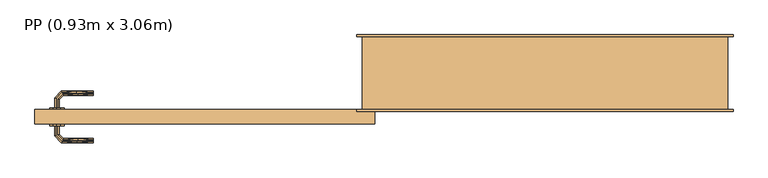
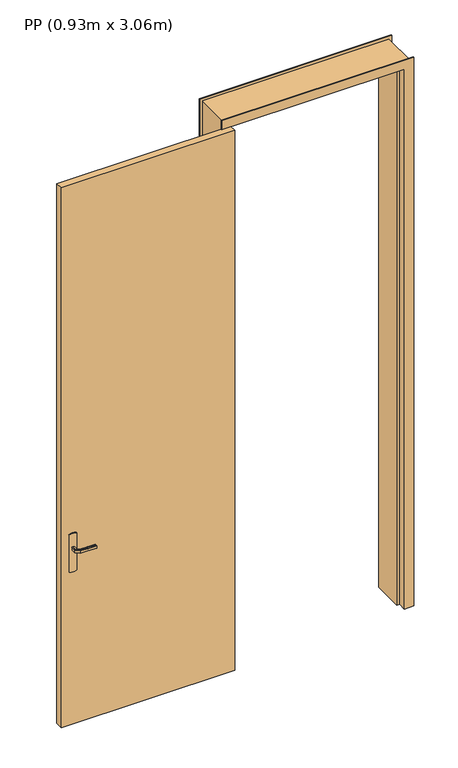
"""IFC4 building model written with IfcOpenShell, lengths in millimetres: door geometry, PP (0.93m x 3.06m)."""

import ifcopenshell
import ifcopenshell.guid

model = None  # the IFC model being written
_history = None  # IfcOwnerHistory: only IFC2X3 demands one
_inside = {}  # id of a spatial element -> (the spatial element, [elements in it])
_under = {}  # id of a project, library or spatial element -> (it, [spatial elements below it])
_declared = {}  # id of a project -> (the project, [libraries it declares])
_typed = {}  # id of a type object -> (the type object, [elements of that type])
_made_of = {}  # id of a material, layer set ... -> (it, [elements and type objects made of it])


def new_model(schema):
    """Start an empty IFC model of exactly this schema.

    Asked for "IFC4X3", IfcOpenShell would pick the latest addendum, in which some entities
    have other attributes; the version numbers below select the first issue.
    IFC2X3 requires an IfcOwnerHistory on every rooted entity: one is made here for all.
    """
    global model, _history
    if schema == "IFC4X3":
        model = ifcopenshell.file(schema_version=(4, 3, 0, 0))
    else:
        model = ifcopenshell.file(schema=schema)
    _inside.clear()
    _under.clear()
    _declared.clear()
    _typed.clear()
    _made_of.clear()
    _history = None
    if model.schema == "IFC2X3":
        org = make("IfcOrganization", Name="unknown")
        user = make(
            "IfcPersonAndOrganization",
            ThePerson=make("IfcPerson", FamilyName="unknown"),
            TheOrganization=org,
        )
        app = make(
            "IfcApplication",
            ApplicationDeveloper=org,
            Version="unknown",
            ApplicationFullName="unknown",
            ApplicationIdentifier="unknown",
        )
        _history = make(
            "IfcOwnerHistory",
            OwningUser=user,
            OwningApplication=app,
            ChangeAction="ADDED",
            CreationDate=0,
        )
    return model


def make(cls, **values):
    """One entity of the class cls with the attributes given. An attribute that is None is left unset."""
    return model.create_entity(
        cls, **{name: value for name, value in values.items() if value is not None}
    )


def rooted(cls, **values):
    """An entity with a GlobalId (a new one), such as an element, a storey or a relation."""
    return make(cls, GlobalId=ifcopenshell.guid.new(), OwnerHistory=_history, **values)


def si_unit(unit_type, name, prefix=None):
    """IfcSIUnit, for example si_unit("LENGTHUNIT", "METRE", prefix="MILLI")."""
    return make("IfcSIUnit", UnitType=unit_type, Prefix=prefix, Name=name)


def assignment(units):
    """IfcUnitAssignment: the units of a project."""
    return None if units is None else make("IfcUnitAssignment", Units=units)


def point(xyz):
    """IfcCartesianPoint."""
    return None if xyz is None else make("IfcCartesianPoint", Coordinates=xyz)


def direction(xyz):
    """IfcDirection."""
    return None if xyz is None else make("IfcDirection", DirectionRatios=xyz)


def frame(location, z_axis=None, x_axis=None):
    """IfcAxis2Placement3D, a coordinate frame: its origin and axes. An axis left out is left unset."""
    return make(
        "IfcAxis2Placement3D",
        Location=point(location),
        Axis=direction(z_axis),
        RefDirection=direction(x_axis),
    )


def origin():
    """The frame at (0, 0, 0) with its axes left unset."""
    return frame((0.0, 0.0, 0.0))


def origin_with_axes():
    """The frame at (0, 0, 0) with the z axis (0, 0, 1) and the x axis (1, 0, 0) written out."""
    return frame((0.0, 0.0, 0.0), z_axis=(0.0, 0.0, 1.0), x_axis=(1.0, 0.0, 0.0))


def place(relative_to, where):
    """IfcLocalPlacement: puts the frame where relative to a parent placement (None: the world)."""
    return make(
        "IfcLocalPlacement", PlacementRelTo=relative_to, RelativePlacement=where
    )


def context(
    kind, dimensions, precision=None, world=None, true_north=None, identifier=None
):
    """IfcGeometricRepresentationContext, for example the 3D "Model" context."""
    return make(
        "IfcGeometricRepresentationContext",
        ContextIdentifier=identifier,
        ContextType=kind,
        CoordinateSpaceDimension=dimensions,
        Precision=precision,
        WorldCoordinateSystem=world,
        TrueNorth=true_north,
    )


def project(units=None, contexts=None):
    """IfcProject with its units and contexts."""
    return rooted(
        "IfcProject",
        Name="project",
        RepresentationContexts=contexts,
        UnitsInContext=assignment(units),
    )


def spatial(cls, under=None, at=None, **own):
    """A site, building, storey or space (cls), placed at a placement, below another one or the project."""
    s = rooted(cls, ObjectPlacement=at, **own)
    if under is not None:
        _under.setdefault(under.id(), (under, []))[1].append(s)
    return s


def polyline(points):
    """IfcPolyline through the points."""
    return make("IfcPolyline", Points=[point(p) for p in points])


def outline(outer, holes=None, kind="AREA"):
    """IfcArbitraryClosedProfileDef: a profile drawn as a closed curve; with holes, ...WithVoids."""
    if holes is None:
        return make("IfcArbitraryClosedProfileDef", ProfileType=kind, OuterCurve=outer)
    return make(
        "IfcArbitraryProfileDefWithVoids",
        ProfileType=kind,
        OuterCurve=outer,
        InnerCurves=holes,
    )


def extrude(swept, where, along, depth):
    """IfcExtrudedAreaSolid: the profile swept, set in the frame where, extruded along a direction by depth."""
    return make(
        "IfcExtrudedAreaSolid",
        SweptArea=swept,
        Position=where,
        ExtrudedDirection=direction(along),
        Depth=depth,
    )


def faces_of(points, faces, orient=None, outer=None):
    """IfcFace entities. A face is a list of loops; a loop is a list of indices into points, from 0.

    orient and outer hold one flag for each loop. By default every Orientation is true, the
    first loop of a face is its IfcFaceOuterBound and the others are IfcFaceBound.
    """
    made = []
    for i, loops in enumerate(faces):
        bounds = []
        for j, loop in enumerate(loops):
            is_outer = j == 0 if outer is None else outer[i][j]
            bounds.append(
                make(
                    "IfcFaceOuterBound" if is_outer else "IfcFaceBound",
                    Bound=make("IfcPolyLoop", Polygon=[points[k] for k in loop]),
                    Orientation=True if orient is None else orient[i][j],
                )
            )
        made.append(make("IfcFace", Bounds=bounds))
    return made


def faceted_brep(points, faces, orient=None, outer=None, voids=None):
    """IfcFacetedBrep: a solid bounded by flat faces; with voids (closed shells), ...WithVoids."""
    shared = [point(p) for p in points]
    hull = make("IfcClosedShell", CfsFaces=faces_of(shared, faces, orient, outer))
    if voids is None:
        return make("IfcFacetedBrep", Outer=hull)
    return make(
        "IfcFacetedBrepWithVoids",
        Outer=hull,
        Voids=[
            make(cls, CfsFaces=faces_of(shared, fs, o, b)) for cls, fs, o, b in voids
        ],
    )


def shape(context_of_items, identifier, shape_type, items):
    """IfcShapeRepresentation: the items that make up one representation, for example the "Body"."""
    return make(
        "IfcShapeRepresentation",
        ContextOfItems=context_of_items,
        RepresentationIdentifier=identifier,
        RepresentationType=shape_type,
        Items=items,
    )


def source(mapping_origin, context_of_items, identifier, shape_type, items):
    """IfcRepresentationMap: a shape defined once, which mapped items show again and again."""
    return make(
        "IfcRepresentationMap",
        MappingOrigin=mapping_origin,
        MappedRepresentation=shape(context_of_items, identifier, shape_type, items),
    )


def transform(
    local_origin,
    x_axis=None,
    y_axis=None,
    z_axis=None,
    scale=None,
    scale2=None,
    scale3=None,
    uniform=True,
):
    """IfcCartesianTransformationOperator3D, or its non-uniform kind. x_axis, y_axis, z_axis: its Axis1, 2, 3."""
    if uniform:
        return make(
            "IfcCartesianTransformationOperator3D",
            Axis1=direction(x_axis),
            Axis2=direction(y_axis),
            LocalOrigin=point(local_origin),
            Scale=scale,
            Axis3=direction(z_axis),
        )
    return make(
        "IfcCartesianTransformationOperator3DnonUniform",
        Axis1=direction(x_axis),
        Axis2=direction(y_axis),
        LocalOrigin=point(local_origin),
        Scale=scale,
        Axis3=direction(z_axis),
        Scale2=scale2,
        Scale3=scale3,
    )


def mapped(mapping_source, mapping_target):
    """IfcMappedItem: shows the shape of a source again, moved by a transform."""
    return make(
        "IfcMappedItem", MappingSource=mapping_source, MappingTarget=mapping_target
    )


def made_of(thing, what):
    """Note that an element or type object is made of a material, layer set ...; save() writes the relation."""
    if what is not None:
        _made_of.setdefault(what.id(), (what, []))[1].append(thing)
    return thing


def element(
    cls,
    number,
    at=None,
    inside=None,
    cuts=None,
    type_object=None,
    material=None,
    context=None,
    identifier="Body",
    shape_type=None,
    held_by="IfcProductDefinitionShape",
    body=None,
    shapes=None,
    **own,
):
    """One element of the class cls, such as IfcWall. Its Tag is "e" and its number.

    at: its placement. inside: the storey or other place that contains it. cuts: it is an
    opening in that element (IfcRelVoidsElement). A single representation is given by context,
    identifier, shape_type and body (its items); several are given by shapes. held_by: the class
    of the entity that holds the representations. save() writes the other relations.
    """
    e = rooted(cls, Tag="e%d" % number, ObjectPlacement=at, **own)
    if body is not None:
        shapes = [shape(context, identifier, shape_type, body)]
    if shapes is not None:
        e.Representation = make(held_by, Representations=shapes)
    if inside is not None:
        _inside.setdefault(inside.id(), (inside, []))[1].append(e)
    if cuts is not None:
        rooted(
            "IfcRelVoidsElement", RelatingBuildingElement=cuts, RelatedOpeningElement=e
        )
    if type_object is not None:
        _typed.setdefault(type_object.id(), (type_object, []))[1].append(e)
    return made_of(e, material)


def aggregate(whole, parts):
    """IfcRelAggregates: a whole, such as a stair, and the parts it consists of."""
    return rooted("IfcRelAggregates", RelatingObject=whole, RelatedObjects=parts)


def save(model, path):
    """Write the relations noted so far, then the file.

    IfcRelAggregates (storeys below a building ...), IfcRelContainedInSpatialStructure (elements
    in a storey), IfcRelDefinesByType, IfcRelAssociatesMaterial and IfcRelDeclares: one each for
    every whole, place, type object, material and project.
    """
    for whole, parts in _under.values():
        aggregate(whole, parts)
    for where, things in _inside.values():
        rooted(
            "IfcRelContainedInSpatialStructure",
            RelatedElements=things,
            RelatingStructure=where,
        )
    for kind, things in _typed.values():
        rooted("IfcRelDefinesByType", RelatedObjects=things, RelatingType=kind)
    for what, things in _made_of.values():
        rooted("IfcRelAssociatesMaterial", RelatedObjects=things, RelatingMaterial=what)
    for by, libraries in _declared.values():
        rooted("IfcRelDeclares", RelatingContext=by, RelatedDefinitions=libraries)
    model.write(path)


def pp_0_93m_x_3_06m_213c1675(model_context):
    return source(origin(), model_context, "Body", "SolidModel", [
        extrude(outline(polyline([(-825.0, -40.0), (-825.0, 0.0), (105.0, 0.0), (105.0, -40.0), (-825.0, -40.0)])), origin_with_axes(), (0.0, 0.0, 1.0), 3060.0),
        faceted_brep([(-762.9747013, 5.0, 1007.7804408), (-767.0252987, 5.0, 1007.7804408), (-771.0, 5.0, 1007.0), (-771.0, 5.0, 993.0), (-767.0252987, 5.0, 992.2195592), (-762.9747013, 5.0, 992.2195592), (-759.0, 5.0, 993.0), (-759.0, 5.0, 1007.0), (-767.0252987, 31.0045755, 1007.7804408), (-771.0, 32.6509507, 1007.0), (-762.9747013, 29.3267632, 1007.7804408), (-749.2986025, 43.002862, 1007.7804408), (-750.9764148, 47.0534593, 1007.7804408), (-759.0, 27.680388, 1007.0), (-759.0, 27.680388, 993.0), (-762.9747013, 29.3267632, 992.2195592), (-767.0252987, 31.0045755, 992.2195592), (-750.9764148, 47.0534593, 992.2195592), (-749.2986025, 43.002862, 992.2195592), (-771.0, 32.6509507, 993.0), (-752.62279, 51.0281607, 1007.0), (-747.6522273, 39.0281607, 1007.0), (-747.6522273, 39.0281607, 993.0), (-752.62279, 51.0281607, 993.0), (-664.9813594, 51.0281607, 1007.0), (-664.9813594, 47.0534593, 1007.7804408), (-664.9813594, 43.002862, 1007.7804408), (-664.9813594, 39.0281607, 1007.0), (-664.9813594, 39.0281607, 993.0), (-664.9813594, 43.002862, 992.2195592), (-664.9813594, 47.0534593, 992.2195592), (-664.9813594, 51.0281607, 993.0), (-707.1399809, 45.0281607, 1007.8786868), (-712.6923028, 51.0281607, 1007.0), (-706.3167933, 39.0281607, 1007.0), (-706.3167933, 39.0281607, 993.0), (-707.1399811, 45.0281608, 992.1213132), (-712.6923104, 51.0281607, 993.0)], [[[0, 1, 2, 3, 4, 5, 6, 7]], [[2, 1, 8, 9]], [[1, 0, 10, 11, 12, 8]], [[0, 7, 13, 10]], [[14, 13, 7, 6]], [[5, 15, 14, 6]], [[5, 4, 16, 17, 18, 15]], [[3, 19, 16, 4]], [[9, 19, 3, 2]], [[9, 8, 12, 20]], [[10, 13, 21, 11]], [[22, 21, 13, 14]], [[14, 15, 18, 22]], [[16, 19, 23, 17]], [[20, 23, 19, 9]], [[24, 25, 26, 27, 28, 29, 30, 31]], [[32, 25, 33]], [[33, 25, 24]], [[33, 20, 12]], [[11, 34, 32]], [[34, 11, 21]], [[27, 26, 34]], [[32, 26, 25]], [[32, 34, 26]], [[32, 33, 12]], [[11, 32, 12]], [[21, 22, 35, 28, 27, 34]], [[36, 29, 35]], [[30, 36, 37]], [[18, 35, 22]], [[29, 28, 35]], [[30, 37, 31]], [[37, 17, 23]], [[36, 17, 37]], [[36, 18, 17]], [[36, 35, 18]], [[29, 36, 30]], [[23, 20, 33, 24, 31, 37]]]),
        extrude(outline(polyline([(1080.0, -785.0), (870.0, -785.0), (866.0039831, -775.3527618), (864.6410162, -765.0), (866.0039831, -754.6472382), (870.0, -745.0), (1080.0, -745.0), (1083.9960169, -754.6472382), (1085.3589838, -765.0), (1083.9960169, -775.3527618), (1080.0, -785.0)])), frame((0.0, 0.0, 0.0), z_axis=(0.0, 1.0, 0.0), x_axis=(0.0, 0.0, 1.0)), (0.0, 0.0, 1.0), 5.0),
        faceted_brep([(-762.9747013, -45.0, 992.2195592), (-767.0252987, -45.0, 992.2195592), (-771.0, -45.0, 993.0), (-771.0, -45.0, 1007.0), (-767.0252987, -45.0, 1007.7804408), (-762.9747013, -45.0, 1007.7804408), (-759.0, -45.0, 1007.0), (-759.0, -45.0, 993.0), (-759.0, -67.4852045, 1007.0), (-759.0, -67.4852045, 993.0), (-762.9747013, -69.1315797, 1007.7804408), (-767.0252987, -70.8093921, 1007.7804408), (-750.8389062, -86.9957845, 1007.7804408), (-749.1610938, -82.9451872, 1007.7804408), (-771.0, -72.4557673, 1007.0), (-771.0, -72.4557673, 993.0), (-767.0252987, -70.8093921, 992.2195592), (-762.9747013, -69.1315797, 992.2195592), (-749.1610938, -82.9451872, 992.2195592), (-750.8389062, -86.9957845, 992.2195592), (-747.5147186, -78.9704859, 1007.0), (-747.5147186, -78.9704859, 993.0), (-752.4852814, -90.9704859, 1007.0), (-752.4852814, -90.9704859, 993.0), (-664.9542163, -82.9451872, 1007.7804408), (-664.9542163, -86.9957845, 1007.7804408), (-664.9542163, -90.9704859, 1007.0), (-664.9542163, -90.9704859, 993.0), (-664.9542163, -86.9957845, 992.2195592), (-664.9542163, -82.9451872, 992.2195592), (-664.9542163, -78.9704859, 993.0), (-664.9542163, -78.9704859, 1007.0), (-706.2344675, -78.9704859, 1007.0), (-706.2344794, -78.9704859, 993.0), (-707.0576551, -84.9704859, 1007.8786868), (-712.5547942, -90.9704859, 1007.0), (-712.5547957, -90.9704859, 993.0), (-707.0576549, -84.9704858, 992.1213132)], [[[0, 1, 2, 3, 4, 5, 6, 7]], [[8, 9, 7, 6]], [[5, 10, 8, 6]], [[5, 4, 11, 12, 13, 10]], [[3, 14, 11, 4]], [[14, 3, 2, 15]], [[2, 1, 16, 15]], [[1, 0, 17, 18, 19, 16]], [[0, 7, 9, 17]], [[20, 21, 9, 8]], [[8, 10, 13, 20]], [[14, 22, 12, 11]], [[23, 22, 14, 15]], [[15, 16, 19, 23]], [[17, 9, 21, 18]], [[24, 25, 26, 27, 28, 29, 30, 31]], [[21, 20, 32, 31, 30, 33]], [[34, 24, 32]], [[25, 34, 35]], [[13, 32, 20]], [[24, 31, 32]], [[25, 35, 26]], [[35, 12, 22]], [[34, 12, 35]], [[34, 13, 12]], [[34, 32, 13]], [[24, 34, 25]], [[22, 23, 36, 27, 26, 35]], [[37, 28, 36]], [[36, 28, 27]], [[36, 23, 19]], [[18, 33, 37]], [[33, 18, 21]], [[30, 29, 33]], [[37, 29, 28]], [[37, 33, 29]], [[37, 36, 19]], [[18, 37, 19]]]),
        faceted_brep([(1070.0, 200.0, 0.0), (1070.0, 0.0, 0.0), (1085.0, 0.0, 0.0), (1085.0, -5.0, 0.0), (1035.0, -5.0, 0.0), (1035.0, 40.0, 0.0), (1020.0, 40.0, 0.0), (1020.0, 205.0, 0.0), (1085.0, 205.0, 0.0), (1085.0, 200.0, 0.0), (1085.0, 200.0, 3110.0), (55.0, 200.0, 3110.0), (55.0, 200.0, 0.0), (70.0, 200.0, 0.0), (70.0, 200.0, 3095.0), (1070.0, 200.0, 3095.0), (1085.0, 205.0, 3110.0), (1020.0, 205.0, 3045.0), (120.0, 205.0, 3045.0), (120.0, 205.0, 0.0), (55.0, 205.0, 0.0), (55.0, 205.0, 3110.0), (1020.0, 40.0, 3045.0), (1035.0, 40.0, 3060.0), (105.0, 40.0, 3060.0), (105.0, 40.0, 0.0), (120.0, 40.0, 0.0), (120.0, 40.0, 3045.0), (1035.0, -5.0, 3060.0), (1085.0, -5.0, 3110.0), (55.0, -5.0, 3110.0), (55.0, -5.0, 0.0), (105.0, -5.0, 0.0), (105.0, -5.0, 3060.0), (1085.0, 0.0, 3110.0), (1070.0, 0.0, 3095.0), (70.0, 0.0, 3095.0), (70.0, 0.0, 0.0), (55.0, 0.0, 0.0), (55.0, 0.0, 3110.0)], [[[0, 1, 2, 3, 4, 5, 6, 7, 8, 9]], [[9, 10, 11, 12, 13, 14, 15, 0]], [[8, 16, 10, 9]], [[7, 17, 18, 19, 20, 21, 16, 8]], [[7, 6, 22, 17]], [[5, 23, 24, 25, 26, 27, 22, 6]], [[5, 4, 28, 23]], [[3, 29, 30, 31, 32, 33, 28, 4]], [[2, 34, 29, 3]], [[1, 35, 36, 37, 38, 39, 34, 2]], [[0, 15, 35, 1]], [[14, 13, 37, 36]], [[13, 12, 20, 19, 26, 25, 32, 31, 38, 37]], [[21, 20, 12, 11]], [[27, 26, 19, 18]], [[33, 32, 25, 24]], [[39, 38, 31, 30]], [[16, 21, 11, 10]], [[22, 27, 18, 17]], [[28, 33, 24, 23]], [[34, 39, 30, 29]], [[15, 14, 36, 35]]]),
        extrude(outline(polyline([(1085.3589838, -765.0), (1083.9960169, -775.3527618), (1080.0, -785.0), (870.0, -785.0), (866.0039831, -775.3527618), (864.6410162, -765.0), (866.0039831, -754.6472382), (870.0, -745.0), (1080.0, -745.0), (1083.9960169, -754.6472382), (1085.3589838, -765.0)])), frame((0.0, -45.0, 0.0), z_axis=(0.0, 1.0, 0.0), x_axis=(0.0, 0.0, 1.0)), (0.0, 0.0, 1.0), 5.0),
    ])


if __name__ == "__main__":
    model = new_model("IFC4")
    model_context = context("Model", 3, world=origin())
    ifc_project = project(units=[si_unit("LENGTHUNIT", "METRE", prefix="MILLI")], contexts=[model_context])
    site = spatial("IfcSite", under=ifc_project)
    building = spatial("IfcBuilding", under=site)
    placement = place(None, origin())
    pp_0_93m_x_3_06m_shape = pp_0_93m_x_3_06m_213c1675(model_context)
    element("IfcDoor", 1, ObjectType="PP (0.93m x 3.06m)", at=placement, inside=building, context=model_context, shape_type="MappedRepresentation", body=[
        mapped(pp_0_93m_x_3_06m_shape, transform((0.0, 0.0, 0.0), x_axis=(1.0, 0.0, 0.0), y_axis=(0.0, 1.0, 0.0), z_axis=(0.0, 0.0, 1.0))),
    ])
    save(model, "model.ifc")
